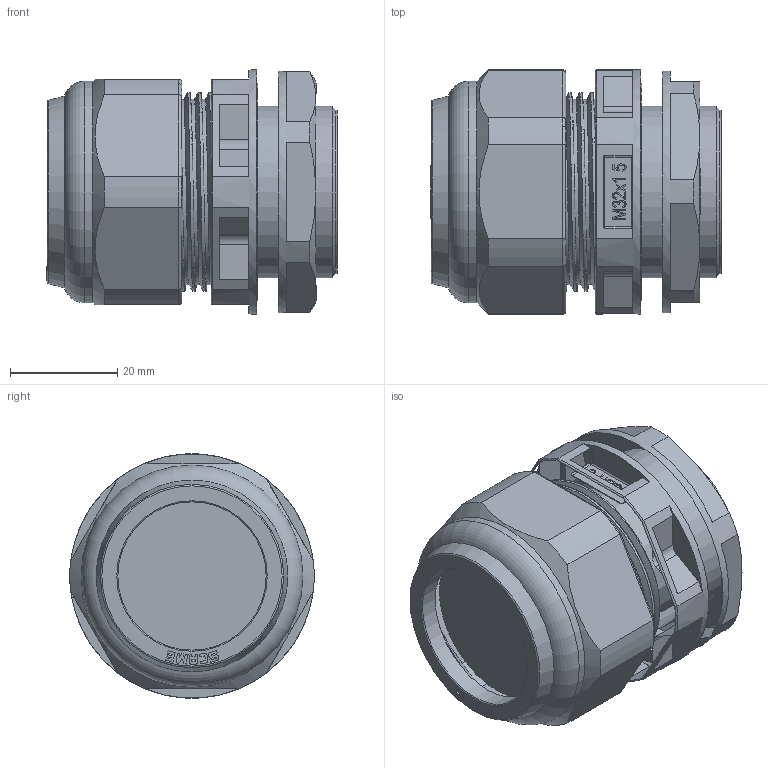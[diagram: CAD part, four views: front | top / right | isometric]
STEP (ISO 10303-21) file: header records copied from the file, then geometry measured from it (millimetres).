
FILE_DESCRIPTION(/* description */ (''),/* implementation_level */ '2;1');
FILE_NAME(/* name */ '4004468.stp',/* time_stamp */ '2016-09-26T09:20:21+02:00',/* author */ (''),/* organization */ (''),/* preprocessor_version */ 'ST-DEVELOPER v16',/* originating_system */ 'SIEMENS PLM Software NX 11.0',/* authorisation */ '');
FILE_SCHEMA (('AUTOMOTIVE_DESIGN { 1 0 10303 214 3 1 1 1 }'));
Length unit declared in the file: millimetre
Products named in the file (1): 4004468_LINKEDEXT_jt
Bounding box: 54.15 x 45.5 x 45.5 mm (x, y, z)
Surface area: 17861.6 mm2 (no closed solid volume)
Topology: 0 solids, 25 shells, 148 faces, 756 edges, 623 vertices
Faces by surface type: plane 77, cylinder 43, torus 16, cone 10, bspline 2
Full cylindrical faces by diameter (mm): 27.6 x1, 30.48 x1, 32 x1, 34.5 x6, 41.3 x1, 45 x1, 45.5 x1
Entity records: 14119 total; most frequent: CARTESIAN_POINT 8782, ORIENTED_EDGE 934, DIRECTION 893, EDGE_CURVE 715, VERTEX_POINT 605, LINE 309, VECTOR 309, AXIS2_PLACEMENT_3D 292
